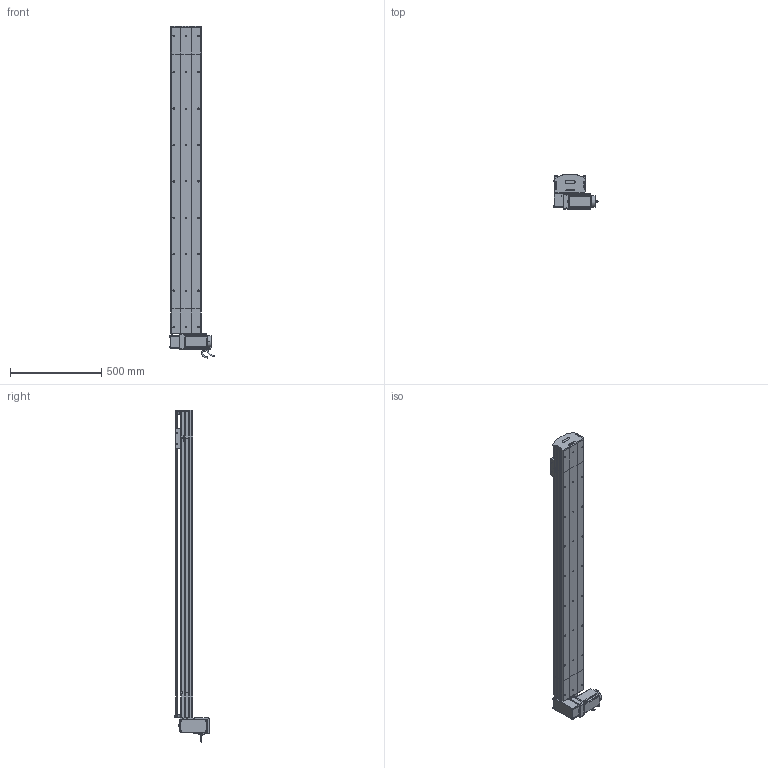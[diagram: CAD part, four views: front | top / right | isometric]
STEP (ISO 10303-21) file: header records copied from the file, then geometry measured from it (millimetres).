
FILE_DESCRIPTION (( 'STEP AP214' ), '1' );
FILE_NAME ('D17 TBN RU S1400.STEP', '2010-06-30T10:55:53', ( 'Christophe Gaillard' ), ( 'SGA' ), 'SwSTEP 2.0', 'SolidWorks 2010', '' );
FILE_SCHEMA (( 'AUTOMOTIVE_DESIGN' ));
Length unit declared in the file: millimetre
Products named in the file (40): guide D17; vis M5 L16_Default; corps 90BLDC125A-640; Moteur motionking 90BLDC125A-640; avant 90BLDC125A-640; Conecteur2_Default; poulie head_Default; codeur 90BLDC125-640; couroie head D17_Default; vis M5 L25_Default; vis M5 L70_Default; Plaque racord D17_Default; Conecteur_Default; vis M5 L8 90°_Default; couvercle D17B_Default; Vis M5 L16-2_Default; vis M5 L12_Default; plaque de  bout tail D17B_Default; Rail D17B; Tail D17B_Default; corpl tail D17B_Default; cache arbre D17_Default; Renvoi RU_Default; Couroie tail D17B_Default; poulie tail_Default; tete d''axe poulie D17B; chariot D17 TBN; Chariot D17 TBN; D17 TBN RU S1400; corp D17B 1400_Default; course 1400 D17B_Default; Couroie+ rail D17 Course 1400 ; couvercle D17B course L1400_Default; couvercle D17B head_Default; corpl head D17 _Default; Head RU D17B_Default; cache D17_Default; Arbre+rail head D17B; plaque de  bout head D17B RU_Default; vis M5 L5_Default
Assembly tree (66 placements, depth 4):
  D17 TBN RU S1400
    chariot D17 TBN
      Chariot D17 TBN
      guide D17  x2
    course 1400 D17B_Default
      corp D17B 1400_Default
      couvercle D17B course L1400_Default
      Couroie+ rail D17 Course 1400 
    Tail D17B_Default
      vis M5 L8 90°_Default  x2
      corpl tail D17B_Default
      vis M5 L25_Default  x2
      couvercle D17B_Default
      vis M5 L12_Default  x4
      Couroie tail D17B_Default
      Rail D17B
      poulie tail_Default
      tete d''axe poulie D17B
      plaque de  bout tail D17B_Default
    Head RU D17B_Default
      vis M5 L12_Default  x8
      vis M5 L16_Default  x2
      vis M5 L70_Default  x4
      Vis M5 L16-2_Default  x4
      vis M5 L25_Default  x2
      corpl head D17 _Default
      Moteur motionking 90BLDC125A-640
        corps 90BLDC125A-640
        Conecteur2_Default
        avant 90BLDC125A-640
        Conecteur_Default
        codeur 90BLDC125-640
      poulie head_Default
      cache D17_Default  x2
      vis M5 L5_Default  x4
      couvercle D17B head_Default
      Plaque racord D17_Default
      Arbre+rail head D17B
      plaque de  bout head D17B RU_Default
      Renvoi RU_Default
      couroie head D17_Default
      cache arbre D17_Default
Bounding box: 245.2 x 188.65 x 1823.95 mm (x, y, z)
Volume: 11073598.2 mm3; surface area: 3147898.8 mm2
Topology: 89 solids, 89 shells, 2555 faces, 6473 edges, 4174 vertices
Faces by surface type: plane 1533, cylinder 725, bspline 136, cone 80, torus 77, sphere 4
Entity records: 82379 total; most frequent: CARTESIAN_POINT 24671, ORIENTED_EDGE 10118, DIRECTION 9572, EDGE_CURVE 5059, LINE 3394, VECTOR 3394, VERTEX_POINT 3318, AXIS2_PLACEMENT_3D 3089
